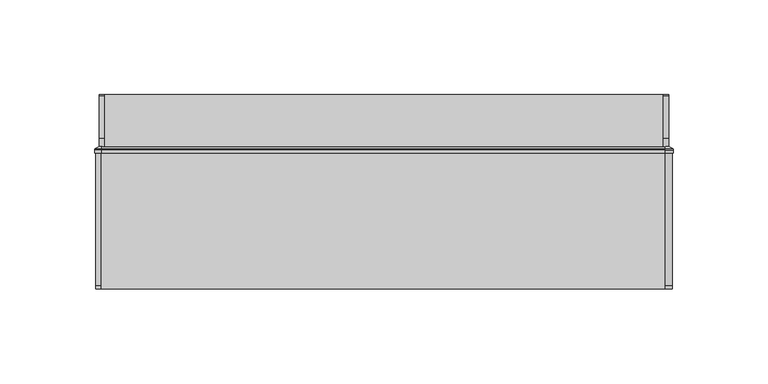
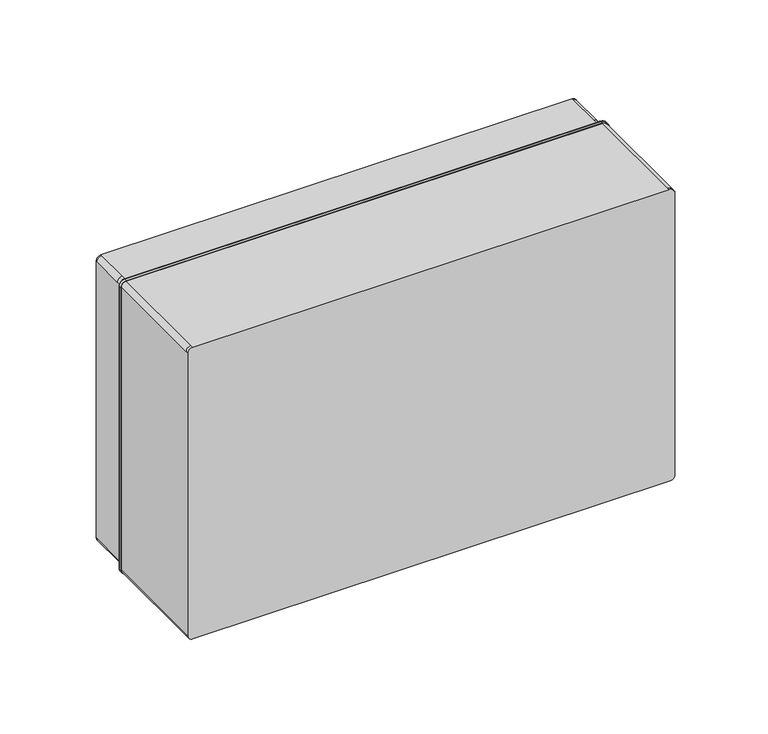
"""IFC4 building model written with IfcOpenShell, lengths in millimetres: proxy geometry, ЩРН-П-12_15_IP65 : ЩРН-П-15_IP65."""

from ifc_helpers import new_model, si_unit, point, frame, origin, place, context, project, spatial, polyline, circle_curve, ellipse_curve, trimmed, outline, extrude, source, transform, mapped, element, save
from ifc_brep_helpers import plane_surface, cylinder_surface, revolved_surface, advanced_brep


def electrical_equipment_27bbc57b(model_context):
    return source(origin(), model_context, "Body", "SolidModel", [
        extrude(outline(polyline([(143.5, 83.0), (-143.5, 83.0), (-143.5, 103.0), (143.5, 103.0), (143.5, 83.0)])), frame((0.0, 0.0, -57.5), z_axis=(0.0, 0.0, 1.0), x_axis=(1.0, 0.0, 0.0)), (0.0, 0.0, 1.0), 115.0),
        advanced_brep(
        [(148.5283006, 72.0, 96.5), (152.5, 72.0, 92.5283006), (152.5, 72.0, -93.5), (149.5, 72.0, -96.5), (-149.5, 72.0, -96.5), (-152.5, 72.0, -93.5), (-152.5, 72.0, 93.5), (-149.5, 72.0, 96.5), (-149.5, 2.0, 96.5), (-149.5, 0.0, 96.5), (148.5283006, 0.0, 96.5), (148.5283006, 2.0, 96.5), (-152.5, 2.0, 93.5), (-152.5, 2.0, -93.5), (-152.5, 0.0, -93.5), (-152.5, 0.0, 93.5), (-149.5, 2.0, -96.5), (149.5, 2.0, -96.5), (149.5, 0.0, -96.5), (-149.5, 0.0, -96.5), (152.5, 2.0, -93.5), (152.5, 2.0, 92.5283006), (152.5, 0.0, 92.5283006), (152.5, 0.0, -93.5)],
        [
            (0, 1, circle_curve(frame((148.5283006, 72.0, 92.5283006), z_axis=(0.0, 1.0, 0.0), x_axis=(1.0, 0.0, 0.0)), 3.9716994)),
            (1, 2),
            (2, 3, circle_curve(frame((149.5, 72.0, -93.5), z_axis=(0.0, 1.0, 0.0), x_axis=(1.0, 0.0, 0.0)), 3.0)),
            (3, 4),
            (4, 5, circle_curve(frame((-149.5, 72.0, -93.5), z_axis=(0.0, 1.0, 0.0), x_axis=(1.0, 0.0, 0.0)), 3.0)),
            (5, 6),
            (6, 7, circle_curve(frame((-149.5, 72.0, 93.5), z_axis=(0.0, 1.0, 0.0), x_axis=(1.0, 0.0, 0.0)), 3.0)),
            (7, 0),
            (7, 8),
            (8, 9),
            (9, 10),
            (10, 11),
            (11, 0),
            (6, 12),
            (12, 8, circle_curve(frame((-149.5, 2.0, 93.5), z_axis=(0.0, 1.0, 0.0), x_axis=(1.0, 0.0, 0.0)), 3.0)),
            (5, 13),
            (13, 14),
            (14, 15),
            (15, 12),
            (4, 16),
            (16, 13, circle_curve(frame((-149.5, 2.0, -93.5), z_axis=(0.0, 1.0, 0.0), x_axis=(1.0, 0.0, 0.0)), 3.0)),
            (3, 17),
            (17, 18),
            (18, 19),
            (19, 16),
            (2, 20),
            (20, 17, circle_curve(frame((149.5, 2.0, -93.5), z_axis=(0.0, 1.0, 0.0), x_axis=(1.0, 0.0, 0.0)), 3.0)),
            (1, 21),
            (21, 22),
            (22, 23),
            (23, 20),
            (11, 21, circle_curve(frame((148.5283006, 2.0, 92.5283006), z_axis=(0.0, 1.0, 0.0), x_axis=(1.0, 0.0, 0.0)), 3.9716994)),
            (9, 15, circle_curve(frame((-149.5, 0.0, 93.5), z_axis=(0.0, -1.0, 0.0), x_axis=(1.0, 0.0, 0.0)), 3.0)),
            (14, 19, circle_curve(frame((-149.5, 0.0, -93.5), z_axis=(0.0, -1.0, 0.0), x_axis=(1.0, 0.0, 0.0)), 3.0)),
            (18, 23, circle_curve(frame((149.5, 0.0, -93.5), z_axis=(0.0, -1.0, 0.0), x_axis=(1.0, 0.0, 0.0)), 3.0)),
            (22, 10, circle_curve(frame((148.5283006, 0.0, 92.5283006), z_axis=(0.0, -1.0, 0.0), x_axis=(1.0, 0.0, 0.0)), 3.9716994)),
        ],
        [
            plane_surface(frame((-149.5, 72.0, 96.5), z_axis=(0.0, 1.0, 0.0), x_axis=(1.0, 0.0, 0.0))),
            plane_surface(frame((148.5283006, 2.0, 96.5), z_axis=(0.0, 0.0, 1.0), x_axis=(0.0, 1.0, 0.0))),
            cylinder_surface(frame((-149.5, 72.0, 93.5), z_axis=(0.0, -1.0, 0.0), x_axis=(1.0, 0.0, 0.0)), 3.0),
            plane_surface(frame((-152.5, 2.0, 93.5), z_axis=(-1.0, 0.0, 0.0), x_axis=(0.0, 1.0, 0.0))),
            cylinder_surface(frame((-149.5, 72.0, -93.5), z_axis=(0.0, -1.0, 0.0), x_axis=(1.0, 0.0, 0.0)), 3.0),
            plane_surface(frame((-149.5, 2.0, -96.5), z_axis=(0.0, 0.0, -1.0), x_axis=(0.0, 1.0, 0.0))),
            cylinder_surface(frame((149.5, 72.0, -93.5), z_axis=(0.0, -1.0, 0.0), x_axis=(1.0, 0.0, 0.0)), 3.0),
            plane_surface(frame((152.5, 2.0, -93.5), z_axis=(1.0, 0.0, 0.0), x_axis=(0.0, 1.0, 0.0))),
            cylinder_surface(frame((148.5283006, 72.0, 92.5283006), z_axis=(0.0, -1.0, 0.0), x_axis=(1.0, 0.0, 0.0)), 3.9716994),
            plane_surface(frame((-146.5, 0.0, 93.5), z_axis=(0.0, -1.0, 0.0), x_axis=(0.0, 0.0, 1.0))),
            cylinder_surface(frame((-149.5, 2.0, 93.5), z_axis=(0.0, -1.0, 0.0), x_axis=(1.0, 0.0, 0.0)), 3.0),
            cylinder_surface(frame((-149.5, 2.0, -93.5), z_axis=(0.0, -1.0, 0.0), x_axis=(1.0, 0.0, 0.0)), 3.0),
            cylinder_surface(frame((149.5, 2.0, -93.5), z_axis=(0.0, -1.0, 0.0), x_axis=(1.0, 0.0, 0.0)), 3.0),
            cylinder_surface(frame((148.5283006, 2.0, 92.5283006), z_axis=(0.0, -1.0, 0.0), x_axis=(1.0, 0.0, 0.0)), 3.9716994),
        ],
        [
            (0, [[1, 2, 3, 4, 5, 6, 7, 8]]),
            (1, [[-8, 9, 10, 11, 12, 13]]),
            (2, [[-7, 14, 15, -9]]),
            (3, [[-6, 16, 17, 18, 19, -14]]),
            (4, [[-5, 20, 21, -16]]),
            (5, [[-4, 22, 23, 24, 25, -20]]),
            (6, [[-3, 26, 27, -22]]),
            (7, [[-2, 28, 29, 30, 31, -26]]),
            (8, [[-1, -13, 32, -28]]),
            (9, [[33, -18, 34, -24, 35, -30, 36, -11]]),
            (10, [[-33, -10, -15, -19]]),
            (11, [[-34, -17, -21, -25]]),
            (12, [[-35, -23, -27, -31]]),
            (13, [[-36, -29, -32, -12]]),
        ],
    ),
        advanced_brep(
        [(-143.9911629, 103.0, 57.4981471), (143.9911629, 103.0, 57.4981471), (143.9911629, 72.0, 57.4981471), (-143.9911629, 72.0, 57.4981471), (-143.9911629, 72.0, -57.4981471), (143.9911629, 72.0, -57.4981471), (143.9911629, 103.0, -57.4981471), (-143.9911629, 103.0, -57.4981471), (147.5, 80.0, 94.5), (147.5, 102.0, 94.5), (147.5, 103.0, 94.5), (-147.5, 103.0, 94.5), (-147.5, 102.0, 94.5), (-147.5, 80.0, 94.5), (-147.5, 72.0, 94.5), (147.5, 72.0, 94.5), (-150.5, 102.0, 91.5), (-150.5, 80.0, 91.5), (-150.5, 103.0, 91.5), (-150.5, 103.0, -91.5), (-150.5, 102.0, -91.5), (-150.5, 80.0, -91.5), (-150.5, 72.0, -91.5), (-150.5, 72.0, 91.5), (-147.5, 102.0, -94.5), (-147.5, 80.0, -94.5), (-147.5, 103.0, -94.5), (147.5, 103.0, -94.5), (147.5, 102.0, -94.5), (147.5, 80.0, -94.5), (147.5, 72.0, -94.5), (-147.5, 72.0, -94.5), (150.5, 102.0, -91.5), (150.5, 80.0, -91.5), (150.5, 103.0, -91.5), (150.5, 103.0, 91.5), (150.5, 102.0, 91.5), (150.5, 80.0, 91.5), (150.5, 72.0, 91.5), (150.5, 72.0, -91.5)],
        [
            (0, 1),
            (1, 2),
            (2, 3),
            (3, 0),
            (4, 5),
            (5, 6),
            (6, 7),
            (7, 4),
            (8, 9),
            (9, 10),
            (10, 11),
            (11, 12),
            (12, 13),
            (13, 14),
            (14, 15),
            (15, 8),
            (12, 16, circle_curve(frame((-147.5, 102.0, 91.5), z_axis=(0.0, -1.0, 0.0), x_axis=(1.0, 0.0, 0.0)), 3.0)),
            (16, 17),
            (17, 13, circle_curve(frame((-147.5, 80.0, 91.5), z_axis=(0.0, 1.0, 0.0), x_axis=(1.0, 0.0, 0.0)), 3.0)),
            (16, 18),
            (18, 19),
            (19, 20),
            (20, 21),
            (21, 22),
            (22, 23),
            (23, 17),
            (20, 24, circle_curve(frame((-147.5, 102.0, -91.5), z_axis=(0.0, -1.0, 0.0), x_axis=(1.0, 0.0, 0.0)), 3.0)),
            (24, 25),
            (25, 21, circle_curve(frame((-147.5, 80.0, -91.5), z_axis=(0.0, 1.0, 0.0), x_axis=(1.0, 0.0, 0.0)), 3.0)),
            (24, 26),
            (26, 27),
            (27, 28),
            (28, 29),
            (29, 30),
            (30, 31),
            (31, 25),
            (28, 32, circle_curve(frame((147.5, 102.0, -91.5), z_axis=(0.0, -1.0, 0.0), x_axis=(1.0, 0.0, 0.0)), 3.0)),
            (32, 33),
            (33, 29, circle_curve(frame((147.5, 80.0, -91.5), z_axis=(0.0, 1.0, 0.0), x_axis=(1.0, 0.0, 0.0)), 3.0)),
            (32, 34),
            (34, 35),
            (35, 36),
            (36, 37),
            (37, 38),
            (38, 39),
            (39, 33),
            (8, 37, circle_curve(frame((147.5, 80.0, 91.5), z_axis=(0.0, 1.0, 0.0), x_axis=(1.0, 0.0, 0.0)), 3.0)),
            (36, 9, circle_curve(frame((147.5, 102.0, 91.5), z_axis=(0.0, -1.0, 0.0), x_axis=(1.0, 0.0, 0.0)), 3.0)),
            (14, 23, circle_curve(frame((-147.5, 72.0, 91.5), z_axis=(0.0, -1.0, 0.0), x_axis=(1.0, 0.0, 0.0)), 3.0)),
            (22, 31, circle_curve(frame((-147.5, 72.0, -91.5), z_axis=(0.0, -1.0, 0.0), x_axis=(1.0, 0.0, 0.0)), 3.0)),
            (30, 39, circle_curve(frame((147.5, 72.0, -91.5), z_axis=(0.0, -1.0, 0.0), x_axis=(1.0, 0.0, 0.0)), 3.0)),
            (38, 15, circle_curve(frame((147.5, 72.0, 91.5), z_axis=(0.0, -1.0, 0.0), x_axis=(1.0, 0.0, 0.0)), 3.0)),
            (2, 5),
            (4, 3),
            (10, 35, circle_curve(frame((147.5, 103.0, 91.5), z_axis=(0.0, 1.0, 0.0), x_axis=(1.0, 0.0, 0.0)), 3.0)),
            (34, 27, circle_curve(frame((147.5, 103.0, -91.5), z_axis=(0.0, 1.0, 0.0), x_axis=(1.0, 0.0, 0.0)), 3.0)),
            (26, 19, circle_curve(frame((-147.5, 103.0, -91.5), z_axis=(0.0, 1.0, 0.0), x_axis=(1.0, 0.0, 0.0)), 3.0)),
            (18, 11, circle_curve(frame((-147.5, 103.0, 91.5), z_axis=(0.0, 1.0, 0.0), x_axis=(1.0, 0.0, 0.0)), 3.0)),
            (0, 7),
            (6, 1),
        ],
        [
            plane_surface(frame((-148.5, 80.0, 57.4981471), z_axis=(0.0, 0.0, -1.0), x_axis=(0.0, 1.0, 0.0))),
            plane_surface(frame((148.5, 80.0, -57.4981471), z_axis=(0.0, 0.0, 1.0), x_axis=(0.0, 1.0, 0.0))),
            plane_surface(frame((147.5, 80.0, 94.5), z_axis=(0.0, 0.0, 1.0), x_axis=(0.0, 1.0, 0.0))),
            cylinder_surface(frame((-147.5, 102.0, 91.5), z_axis=(0.0, -1.0, 0.0), x_axis=(1.0, 0.0, 0.0)), 3.0),
            plane_surface(frame((-150.5, 80.0, 91.5), z_axis=(-1.0, 0.0, 0.0), x_axis=(0.0, 1.0, 0.0))),
            cylinder_surface(frame((-147.5, 102.0, -91.5), z_axis=(0.0, -1.0, 0.0), x_axis=(1.0, 0.0, 0.0)), 3.0),
            plane_surface(frame((-147.5, 80.0, -94.5), z_axis=(0.0, 0.0, -1.0), x_axis=(0.0, 1.0, 0.0))),
            cylinder_surface(frame((147.5, 102.0, -91.5), z_axis=(0.0, -1.0, 0.0), x_axis=(1.0, 0.0, 0.0)), 3.0),
            plane_surface(frame((150.5, 80.0, -91.5), z_axis=(1.0, 0.0, 0.0), x_axis=(0.0, 1.0, 0.0))),
            cylinder_surface(frame((147.5, 102.0, 91.5), z_axis=(0.0, -1.0, 0.0), x_axis=(1.0, 0.0, 0.0)), 3.0),
            plane_surface(frame((143.9911629, 72.0, 57.4981471), z_axis=(0.0, -1.0, 0.0), x_axis=(0.0, 0.0, -1.0))),
            plane_surface(frame((143.9911629, 103.0, 57.4981471), z_axis=(0.0, 1.0, 0.0), x_axis=(0.0, 0.0, 1.0))),
            plane_surface(frame((-143.9911629, 72.0, -57.4981471), z_axis=(1.0, 0.0, 0.0), x_axis=(0.0, 1.0, 0.0))),
            plane_surface(frame((143.9911629, 72.0, 57.4981471), z_axis=(-1.0, 0.0, 0.0), x_axis=(0.0, 1.0, 0.0))),
            cylinder_surface(frame((-147.5, 103.0, 91.5), z_axis=(0.0, -1.0, 0.0), x_axis=(1.0, 0.0, 0.0)), 3.0),
            cylinder_surface(frame((-147.5, 103.0, -91.5), z_axis=(0.0, -1.0, 0.0), x_axis=(1.0, 0.0, 0.0)), 3.0),
            cylinder_surface(frame((147.5, 103.0, -91.5), z_axis=(0.0, -1.0, 0.0), x_axis=(1.0, 0.0, 0.0)), 3.0),
            cylinder_surface(frame((147.5, 103.0, 91.5), z_axis=(0.0, -1.0, 0.0), x_axis=(1.0, 0.0, 0.0)), 3.0),
        ],
        [
            (0, [[1, 2, 3, 4]]),
            (1, [[5, 6, 7, 8]]),
            (2, [[9, 10, 11, 12, 13, 14, 15, 16]]),
            (3, [[-13, 17, 18, 19]]),
            (4, [[-18, 20, 21, 22, 23, 24, 25, 26]]),
            (5, [[-23, 27, 28, 29]]),
            (6, [[-28, 30, 31, 32, 33, 34, 35, 36]]),
            (7, [[-33, 37, 38, 39]]),
            (8, [[-38, 40, 41, 42, 43, 44, 45, 46]]),
            (9, [[-9, 47, -43, 48]]),
            (10, [[-15, 49, -25, 50, -35, 51, -45, 52], [53, -5, 54, -3]]),
            (11, [[55, -41, 56, -31, 57, -21, 58, -11], [-1, 59, -7, 60]]),
            (12, [[-4, -54, -8, -59]]),
            (13, [[-6, -53, -2, -60]]),
            (14, [[-49, -14, -19, -26]]),
            (14, [[-58, -20, -17, -12]]),
            (15, [[-50, -24, -29, -36]]),
            (15, [[-57, -30, -27, -22]]),
            (16, [[-51, -34, -39, -46]]),
            (16, [[-56, -40, -37, -32]]),
            (17, [[-52, -44, -47, -16]]),
            (17, [[-55, -10, -48, -42]]),
        ],
    ),
        advanced_brep(
        [(-152.9898142, 72.0, 93.507075), (-149.4776209, 72.0, 97.0192684), (-149.4776209, 73.566402, 97.0192684), (-152.9898142, 73.566402, 93.507075), (-150.4898142, 75.5193543, 93.507075), (-149.4776209, 75.5193543, 94.5192684), (-149.4776209, 72.0, 94.5192684), (-150.4898142, 72.0, 93.507075), (-152.9898142, 73.566402, -93.4754068), (-152.9898142, 72.0, -93.4754068), (-150.4898142, 72.0, -93.4754068), (-150.4898142, 75.5193543, -93.4754068), (-149.498733, 72.0, -96.966488), (-149.498733, 73.566402, -96.966488), (-149.498733, 75.5193543, -94.466488), (-149.498733, 72.0, -94.466488), (149.4496724, 73.566402, -96.966488), (149.4496724, 72.0, -96.966488), (149.4496724, 72.0, -94.466488), (149.4496724, 75.5193543, -94.466488), (153.0141503, 72.0, -93.40201), (153.0141503, 73.566402, -93.40201), (150.5141503, 75.5193543, -93.40201), (150.5141503, 72.0, -93.40201), (148.5135486, 72.0, 97.0192684), (148.5135486, 73.566402, 97.0192684), (148.5135486, 75.5193543, 94.5192684), (148.5135486, 72.0, 94.5192684), (-152.6014108, 74.2523963, 93.507075), (-149.4776209, 74.2523963, 96.630865), (-152.6014108, 74.2523963, -93.4754068), (-149.498733, 74.2523963, -96.5780846), (149.4496724, 74.2523963, -96.5780846), (152.6257469, 74.2523963, -93.40201), (148.5135486, 74.2523963, 96.630865), (150.5141503, 75.5193543, 92.5186666), (152.6257469, 74.2523963, 92.5186666), (153.0141503, 73.566402, 92.5186666), (153.0141503, 72.0, 92.5186666), (150.5141503, 72.0, 92.5186666)],
        [
            (0, 1, circle_curve(frame((-149.4776209, 72.0, 93.507075), z_axis=(0.0, 1.0, 0.0), x_axis=(0.0, 0.0, 1.0)), 3.5121934)),
            (1, 2),
            (2, 3, circle_curve(frame((-149.4776209, 73.566402, 93.507075), z_axis=(0.0, -1.0, 0.0), x_axis=(0.0, 0.0, 1.0)), 3.5121934)),
            (3, 0),
            (4, 5, circle_curve(frame((-149.4776209, 75.5193543, 93.507075), z_axis=(0.0, 1.0, 0.0), x_axis=(0.0, 0.0, 1.0)), 1.0121934)),
            (5, 6),
            (6, 7, circle_curve(frame((-149.4776209, 72.0, 93.507075), z_axis=(0.0, -1.0, 0.0), x_axis=(0.0, 0.0, 1.0)), 1.0121934)),
            (7, 4),
            (3, 8),
            (8, 9),
            (9, 0),
            (7, 10),
            (10, 11),
            (11, 4),
            (12, 9, circle_curve(frame((-149.498733, 72.0, -93.4754068), z_axis=(0.0, 1.0, 0.0), x_axis=(-1.0, 0.0, 0.0)), 3.4910812)),
            (8, 13, circle_curve(frame((-149.498733, 73.566402, -93.4754068), z_axis=(0.0, -1.0, 0.0), x_axis=(-1.0, 0.0, 0.0)), 3.4910812)),
            (13, 12),
            (14, 11, circle_curve(frame((-149.498733, 75.5193543, -93.4754068), z_axis=(0.0, 1.0, 0.0), x_axis=(-1.0, 0.0, 0.0)), 0.9910812)),
            (10, 15, circle_curve(frame((-149.498733, 72.0, -93.4754068), z_axis=(0.0, -1.0, 0.0), x_axis=(-1.0, 0.0, 0.0)), 0.9910812)),
            (15, 14),
            (13, 16),
            (16, 17),
            (17, 12),
            (15, 18),
            (18, 19),
            (19, 14),
            (20, 17, circle_curve(frame((149.4496724, 72.0, -93.40201), z_axis=(0.0, 1.0, 0.0), x_axis=(0.0, 0.0, -1.0)), 3.564478)),
            (16, 21, circle_curve(frame((149.4496724, 73.566402, -93.40201), z_axis=(0.0, -1.0, 0.0), x_axis=(0.0, 0.0, -1.0)), 3.564478)),
            (21, 20),
            (22, 19, circle_curve(frame((149.4496724, 75.5193543, -93.40201), z_axis=(0.0, 1.0, 0.0), x_axis=(0.0, 0.0, -1.0)), 1.064478)),
            (18, 23, circle_curve(frame((149.4496724, 72.0, -93.40201), z_axis=(0.0, -1.0, 0.0), x_axis=(0.0, 0.0, -1.0)), 1.064478)),
            (23, 22),
            (24, 25),
            (25, 2),
            (1, 24),
            (26, 27),
            (27, 6),
            (5, 26),
            (28, 29, circle_curve(frame((-149.4776209, 74.2523963, 93.507075), z_axis=(0.0, 1.0, 0.0), x_axis=(0.0, 0.0, 1.0)), 3.12379)),
            (29, 5),
            (4, 28),
            (2, 29, circle_curve(frame((-149.4776209, 73.566402, 96.2192684), z_axis=(-1.0, 0.0, 0.0), x_axis=(0.0, 0.0, -1.0)), 0.8)),
            (28, 3, circle_curve(frame((-152.1898142, 73.566402, 93.507075), z_axis=(0.0, 0.0, 1.0), x_axis=(1.0, 0.0, 0.0)), 0.8)),
            (11, 30),
            (30, 28),
            (30, 8, circle_curve(frame((-152.1898142, 73.566402, -93.4754068), z_axis=(0.0, 0.0, 1.0), x_axis=(1.0, 0.0, 0.0)), 0.8)),
            (31, 30, circle_curve(frame((-149.498733, 74.2523963, -93.4754068), z_axis=(0.0, 1.0, 0.0), x_axis=(-1.0, 0.0, 0.0)), 3.1026778)),
            (14, 31),
            (31, 13, circle_curve(frame((-149.498733, 73.566402, -96.166488), z_axis=(-1.0, 0.0, 0.0), x_axis=(0.0, 0.0, 1.0)), 0.8)),
            (19, 32),
            (32, 31),
            (32, 16, circle_curve(frame((149.4496724, 73.566402, -96.166488), z_axis=(-1.0, 0.0, 0.0), x_axis=(0.0, 0.0, 1.0)), 0.8)),
            (33, 32, circle_curve(frame((149.4496724, 74.2523963, -93.40201), z_axis=(0.0, 1.0, 0.0), x_axis=(0.0, 0.0, -1.0)), 3.1760746)),
            (22, 33),
            (33, 21, circle_curve(frame((152.2141503, 73.566402, -93.40201), z_axis=(0.0, 0.0, -1.0), x_axis=(-1.0, 0.0, 0.0)), 0.8)),
            (34, 26),
            (29, 34),
            (25, 34, circle_curve(frame((148.5135486, 73.566402, 96.2192684), z_axis=(-1.0, 0.0, 0.0), x_axis=(0.0, 0.0, -1.0)), 0.8)),
            (22, 35),
            (35, 36),
            (36, 33),
            (36, 37, circle_curve(frame((152.2141503, 73.566402, 92.5186666), z_axis=(0.0, 0.0, -1.0), x_axis=(-1.0, 0.0, 0.0)), 0.8)),
            (37, 21),
            (37, 38),
            (38, 20),
            (23, 39),
            (39, 35),
            (34, 36, circle_curve(frame((148.5135486, 74.2523963, 92.5186666), z_axis=(0.0, 1.0, 0.0), x_axis=(1.0, 0.0, 0.0)), 4.1121984)),
            (35, 26, circle_curve(frame((148.5135486, 75.5193543, 92.5186666), z_axis=(0.0, -1.0, 0.0), x_axis=(1.0, 0.0, 0.0)), 2.0006018)),
            (25, 37, circle_curve(frame((148.5135486, 73.566402, 92.5186666), z_axis=(0.0, 1.0, 0.0), x_axis=(1.0, 0.0, 0.0)), 4.5006018)),
            (24, 38, circle_curve(frame((148.5135486, 72.0, 92.5186666), z_axis=(0.0, 1.0, 0.0), x_axis=(1.0, 0.0, 0.0)), 4.5006018)),
            (27, 39, circle_curve(frame((148.5135486, 72.0, 92.5186666), z_axis=(0.0, 1.0, 0.0), x_axis=(1.0, 0.0, 0.0)), 2.0006018)),
        ],
        [
            cylinder_surface(frame((-149.4776209, 0.0, 93.507075), z_axis=(0.0, -1.0, 0.0), x_axis=(0.0, 0.0, 1.0)), 3.5121934),
            revolved_surface(polyline([(-149.4776209, 72.0, 94.5192684), (-149.4776209, 75.5193543, 94.5192684)]), (-149.4776209, 0.0, 93.507075), (0.0, -1.0, 0.0)),
            plane_surface(frame((-152.9898142, 73.566402, 93.507075), z_axis=(-1.0, 0.0, 0.0), x_axis=(0.0, 0.0, -1.0))),
            plane_surface(frame((-150.4898142, 72.0, 93.507075), z_axis=(1.0, 0.0, 0.0), x_axis=(0.0, 0.0, -1.0))),
            cylinder_surface(frame((-149.498733, 0.0, -93.4754068), z_axis=(0.0, -1.0, 0.0), x_axis=(-1.0, 0.0, 0.0)), 3.4910812),
            revolved_surface(polyline([(-150.48981419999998, 72.0, -93.4754068), (-150.48981419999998, 75.5193543, -93.4754068)]), (-149.498733, 0.0, -93.4754068), (0.0, -1.0, 0.0)),
            plane_surface(frame((-149.498733, 73.566402, -96.966488), z_axis=(0.0, 0.0, -1.0), x_axis=(1.0, 0.0, 0.0))),
            plane_surface(frame((-149.498733, 72.0, -94.466488), z_axis=(0.0, 0.0, 1.0), x_axis=(1.0, 0.0, 0.0))),
            cylinder_surface(frame((149.4496724, 0.0, -93.40201), z_axis=(0.0, -1.0, 0.0), x_axis=(0.0, 0.0, -1.0)), 3.564478),
            revolved_surface(polyline([(149.4496724, 72.0, -94.466488), (149.4496724, 75.5193543, -94.466488)]), (149.4496724, 0.0, -93.40201), (0.0, -1.0, 0.0)),
            plane_surface(frame((148.5135486, 73.566402, 97.0192684), z_axis=(0.0, 0.0, 1.0), x_axis=(-1.0, 0.0, 0.0))),
            plane_surface(frame((148.5135486, 72.0, 94.5192684), z_axis=(0.0, 0.0, -1.0), x_axis=(-1.0, 0.0, 0.0))),
            revolved_surface(polyline([(-149.4776209, 75.5193543, 94.5192684), (-149.4776209, 74.2523963, 96.630865)]), (-149.4776209, 0.0, 93.507075), (0.0, -1.0, 0.0)),
            revolved_surface(trimmed(ellipse_curve(frame((-149.4776209, 73.566402, 96.2192684), z_axis=(1.0, 0.0, 0.0), x_axis=(0.0, 0.0, -1.0)), 0.8, 0.8), [point((-149.4776209, 74.2523963, 96.630865))], [point((-149.4776209, 73.566402, 97.0192684))], True, "CARTESIAN"), (-149.4776209, 0.0, 93.507075), (0.0, -1.0, 0.0)),
            plane_surface(frame((-150.4898142, 75.5193543, 93.507075), z_axis=(-0.5144957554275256, 0.8574929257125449, 0.0), x_axis=(0.0, 0.0, -1.0))),
            cylinder_surface(frame((-152.1898142, 73.566402, 93.507075), z_axis=(0.0, 0.0, 1.0), x_axis=(1.0, 0.0, 0.0)), 0.8),
            revolved_surface(polyline([(-150.4898142, 75.5193543, -93.4754068), (-152.6014108, 74.2523963, -93.4754068)]), (-149.498733, 0.0, -93.4754068), (0.0, -1.0, 0.0)),
            revolved_surface(trimmed(ellipse_curve(frame((-152.1898142, 73.566402, -93.4754068), z_axis=(0.0, 0.0, 1.0), x_axis=(1.0, 0.0, 0.0)), 0.8, 0.8), [point((-152.6014108, 74.2523963, -93.4754068))], [point((-152.9898142, 73.566402, -93.4754068))], True, "CARTESIAN"), (-149.498733, 0.0, -93.4754068), (0.0, -1.0, 0.0)),
            plane_surface(frame((-149.498733, 75.5193543, -94.466488), z_axis=(0.0, 0.8574929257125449, -0.5144957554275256), x_axis=(1.0, 0.0, 0.0))),
            cylinder_surface(frame((-149.498733, 73.566402, -96.166488), z_axis=(-1.0, 0.0, 0.0), x_axis=(0.0, 0.0, 1.0)), 0.8),
            revolved_surface(polyline([(149.4496724, 75.5193543, -94.466488), (149.4496724, 74.2523963, -96.5780846)]), (149.4496724, 0.0, -93.40201), (0.0, -1.0, 0.0)),
            revolved_surface(trimmed(ellipse_curve(frame((149.4496724, 73.566402, -96.166488), z_axis=(-1.0, 0.0, 0.0), x_axis=(0.0, 0.0, 1.0)), 0.8, 0.8), [point((149.4496724, 74.2523963, -96.5780846))], [point((149.4496724, 73.566402, -96.966488))], True, "CARTESIAN"), (149.4496724, 0.0, -93.40201), (0.0, -1.0, 0.0)),
            plane_surface(frame((148.5135486, 75.5193543, 94.5192684), z_axis=(0.0, 0.8574929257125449, 0.5144957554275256), x_axis=(-1.0, 0.0, 0.0))),
            cylinder_surface(frame((148.5135486, 73.566402, 96.2192684), z_axis=(1.0, 0.0, 0.0), x_axis=(0.0, 0.0, -1.0)), 0.8),
            plane_surface(frame((150.5141503, 75.5193543, -93.40201), z_axis=(0.5144957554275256, 0.8574929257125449, 0.0), x_axis=(0.0, 0.0, 1.0))),
            cylinder_surface(frame((152.2141503, 73.566402, -93.40201), z_axis=(0.0, 0.0, -1.0), x_axis=(-1.0, 0.0, 0.0)), 0.8),
            plane_surface(frame((153.0141503, 73.566402, -93.40201), z_axis=(1.0, 0.0, 0.0), x_axis=(0.0, 0.0, 1.0))),
            plane_surface(frame((150.5141503, 72.0, -93.40201), z_axis=(-1.0, 0.0, 0.0), x_axis=(0.0, 0.0, 1.0))),
            revolved_surface(polyline([(150.5141503, 75.5193543, 92.5186666), (152.6257469, 74.2523963, 92.5186666)]), (148.5135486, 0.0, 92.5186666), (0.0, -1.0, 0.0)),
            revolved_surface(trimmed(ellipse_curve(frame((152.2141503, 73.566402, 92.5186666), z_axis=(0.0, 0.0, -1.0), x_axis=(-1.0, 0.0, 0.0)), 0.8, 0.8), [point((152.6257469, 74.2523963, 92.5186666))], [point((153.0141503, 73.566402, 92.5186666))], True, "CARTESIAN"), (148.5135486, 0.0, 92.5186666), (0.0, -1.0, 0.0)),
            cylinder_surface(frame((148.5135486, 0.0, 92.5186666), z_axis=(0.0, -1.0, 0.0), x_axis=(1.0, 0.0, 0.0)), 4.5006018),
            plane_surface(frame((148.5135486, 72.0, 92.5186666), z_axis=(0.0, -1.0, 0.0), x_axis=(1.0, 0.0, 0.0))),
            revolved_surface(polyline([(150.5141504, 72.0, 92.5186666), (150.5141504, 75.5193543, 92.5186666)]), (148.5135486, 0.0, 92.5186666), (0.0, -1.0, 0.0)),
        ],
        [
            (0, [[1, 2, 3, 4]]),
            (1, [[5, 6, 7, 8]]),
            (2, [[-4, 9, 10, 11]]),
            (3, [[-8, 12, 13, 14]]),
            (4, [[15, -10, 16, 17]]),
            (5, [[18, -13, 19, 20]]),
            (6, [[-17, 21, 22, 23]]),
            (7, [[-20, 24, 25, 26]]),
            (8, [[27, -22, 28, 29]]),
            (9, [[30, -25, 31, 32]]),
            (10, [[33, 34, -2, 35]]),
            (11, [[36, 37, -6, 38]]),
            (12, [[39, 40, -5, 41]]),
            (13, [[-3, 42, -39, 43]]),
            (14, [[-41, -14, 44, 45]]),
            (15, [[-43, -45, 46, -9]]),
            (16, [[47, -44, -18, 48]]),
            (17, [[-16, -46, -47, 49]]),
            (18, [[-48, -26, 50, 51]]),
            (19, [[-49, -51, 52, -21]]),
            (20, [[53, -50, -30, 54]]),
            (21, [[-28, -52, -53, 55]]),
            (22, [[56, -38, -40, 57]]),
            (23, [[58, -57, -42, -34]]),
            (24, [[-54, 59, 60, 61]]),
            (25, [[-55, -61, 62, 63]]),
            (26, [[-29, -63, 64, 65]]),
            (27, [[-32, 66, 67, -59]]),
            (28, [[68, -60, 69, -56]]),
            (29, [[70, -62, -68, -58]]),
            (30, [[71, -64, -70, -33]]),
            (31, [[-27, -65, -71, -35, -1, -11, -15, -23], [72, -66, -31, -24, -19, -12, -7, -37]]),
            (32, [[-69, -67, -72, -36]]),
        ],
    ),
    ])


if __name__ == "__main__":
    model = new_model("IFC4")
    model_context = context("Model", 3, world=origin())
    ifc_project = project(units=[si_unit("LENGTHUNIT", "METRE", prefix="MILLI")], contexts=[model_context])
    site = spatial("IfcSite", under=ifc_project)
    building = spatial("IfcBuilding", under=site)
    placement = place(None, origin())
    electrical_equipment_shape = electrical_equipment_27bbc57b(model_context)
    element("IfcBuildingElementProxy", 1, Name="ЩРН-П-12_15_IP65 : ЩРН-П-15_IP65", ObjectType="ЩРН-П-12_15_IP65 : ЩРН-П-15_IP65", at=placement, inside=building, context=model_context, shape_type="MappedRepresentation", body=[
        mapped(electrical_equipment_shape, transform((0.0, 0.0, 0.0), x_axis=(1.0, 0.0, 0.0), y_axis=(0.0, 1.0, 0.0), z_axis=(0.0, 0.0, 1.0))),
    ])
    save(model, "model.ifc")
